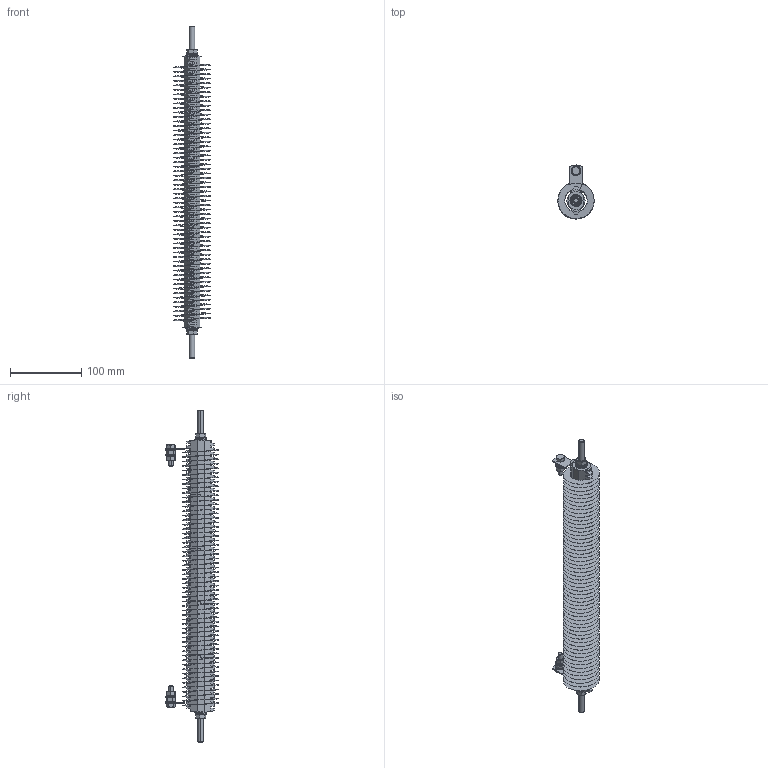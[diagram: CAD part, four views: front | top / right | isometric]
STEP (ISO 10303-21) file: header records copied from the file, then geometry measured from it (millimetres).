
FILE_DESCRIPTION (( 'STEP AP214' ), '1' );
FILE_NAME ('EDGS1000.STEP', '2014-06-05T12:45:07', ( '' ), ( '' ), 'SwSTEP 2.0', 'SolidWorks 2012', '' );
FILE_SCHEMA (( 'AUTOMOTIVE_DESIGN' ));
Length unit declared in the file: millimetre
Products named in the file (14): 032-012 - STUD MOUNT CERAMICS_032-012-TSMCL; Hex Nut01_0.3125" - 0.26" thk; Lock Washer_0.3125" - 0.08" thk; Flat Washer_.3125" - .68" - .05"thk; Flat Washer_.25" - .5" - .04"thk; 12-800-011; lock washer spring_Regular LW 0.25; hex nut_HNUT 0.2500-20-D-C; Hex Head Srew_HBOLT 0.2500-20x1x1-C; 326167; Helical Coil_1000; 032-012 - STUD MOUNT CERAMICS_032-012-TSECL; 0.30 inch threaded rod_0.3125" - 18.375" long; EDGS1000
Assembly tree (29 placements, depth 2):
  EDGS1000
    0.30 inch threaded rod_0.3125" - 18.375" long
    032-012 - STUD MOUNT CERAMICS_032-012-TSECL  x2
    Helical Coil_1000
    326167  x2
    Hex Head Srew_HBOLT 0.2500-20x1x1-C  x2
    hex nut_HNUT 0.2500-20-D-C  x4
    lock washer spring_Regular LW 0.25  x2
    12-800-011  x2
    Flat Washer_.25" - .5" - .04"thk  x4
    Flat Washer_.3125" - .68" - .05"thk  x2
    Lock Washer_0.3125" - 0.08" thk  x2
    Hex Nut01_0.3125" - 0.26" thk  x2
    032-012 - STUD MOUNT CERAMICS_032-012-TSMCL  x3
Bounding box: 50.8 x 75.4 x 466.73 mm (x, y, z)
Volume: 233917.2 mm3; surface area: 223530 mm2
Topology: 29 solids, 29 shells, 904 faces, 2408 edges, 1556 vertices
Faces by surface type: bspline 374, plane 298, cone 120, cylinder 96, torus 16
Entity records: 133945 total; most frequent: CARTESIAN_POINT 125819, ORIENTED_EDGE 1952, DIRECTION 1049, EDGE_CURVE 976, VERTEX_POINT 632, AXIS2_PLACEMENT_3D 391, EDGE_LOOP 382, ADVANCED_FACE 368
